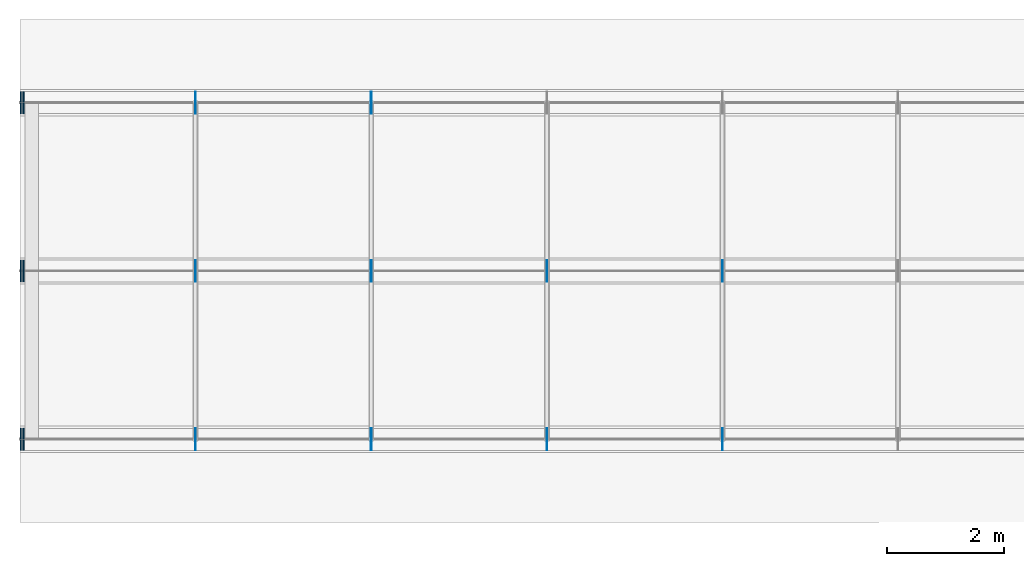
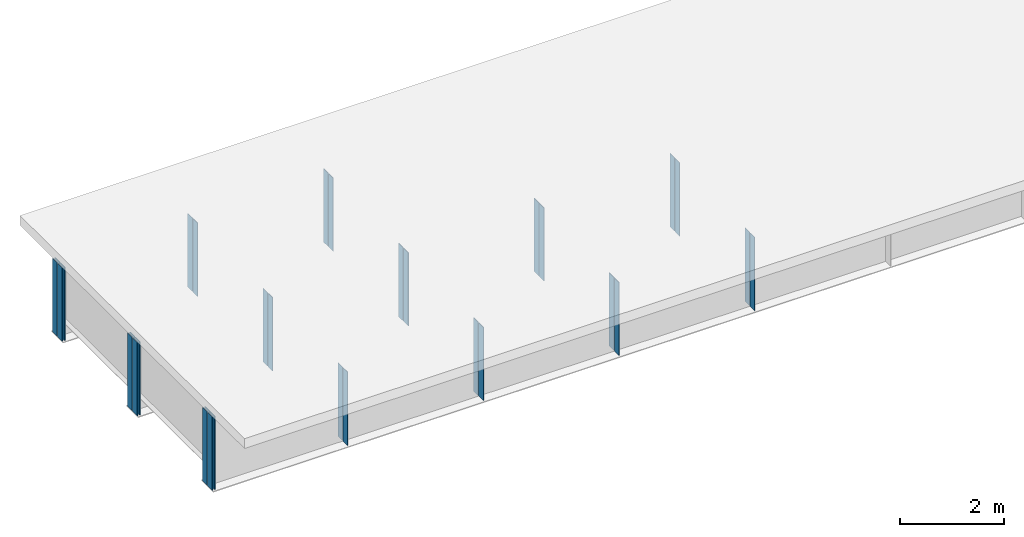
# One storey, part 2 of 10: 32 plates.
"""IFC4 building model written with IfcOpenShell, lengths in metres."""

import ifcopenshell
import ifcopenshell.guid

model = None  # the IFC model being written
_history = None  # IfcOwnerHistory: only IFC2X3 demands one
_inside = {}  # id of a spatial element -> (the spatial element, [elements in it])
_under = {}  # id of a project, library or spatial element -> (it, [spatial elements below it])
_declared = {}  # id of a project -> (the project, [libraries it declares])
_typed = {}  # id of a type object -> (the type object, [elements of that type])
_made_of = {}  # id of a material, layer set ... -> (it, [elements and type objects made of it])


def new_model(schema):
    """Start an empty IFC model of exactly this schema.

    Asked for "IFC4X3", IfcOpenShell would pick the latest addendum, in which some entities
    have other attributes; the version numbers below select the first issue.
    IFC2X3 requires an IfcOwnerHistory on every rooted entity: one is made here for all.
    """
    global model, _history
    if schema == "IFC4X3":
        model = ifcopenshell.file(schema_version=(4, 3, 0, 0))
    else:
        model = ifcopenshell.file(schema=schema)
    _inside.clear()
    _under.clear()
    _declared.clear()
    _typed.clear()
    _made_of.clear()
    _history = None
    if model.schema == "IFC2X3":
        org = make("IfcOrganization", Name="unknown")
        user = make(
            "IfcPersonAndOrganization",
            ThePerson=make("IfcPerson", FamilyName="unknown"),
            TheOrganization=org,
        )
        app = make(
            "IfcApplication",
            ApplicationDeveloper=org,
            Version="unknown",
            ApplicationFullName="unknown",
            ApplicationIdentifier="unknown",
        )
        _history = make(
            "IfcOwnerHistory",
            OwningUser=user,
            OwningApplication=app,
            ChangeAction="ADDED",
            CreationDate=0,
        )
    return model


def make(cls, **values):
    """One entity of the class cls with the attributes given. An attribute that is None is left unset."""
    return model.create_entity(
        cls, **{name: value for name, value in values.items() if value is not None}
    )


def rooted(cls, **values):
    """An entity with a GlobalId (a new one), such as an element, a storey or a relation."""
    return make(cls, GlobalId=ifcopenshell.guid.new(), OwnerHistory=_history, **values)


def si_unit(unit_type, name, prefix=None):
    """IfcSIUnit, for example si_unit("LENGTHUNIT", "METRE", prefix="MILLI")."""
    return make("IfcSIUnit", UnitType=unit_type, Prefix=prefix, Name=name)


def assignment(units):
    """IfcUnitAssignment: the units of a project."""
    return None if units is None else make("IfcUnitAssignment", Units=units)


def point(xyz):
    """IfcCartesianPoint."""
    return None if xyz is None else make("IfcCartesianPoint", Coordinates=xyz)


def direction(xyz):
    """IfcDirection."""
    return None if xyz is None else make("IfcDirection", DirectionRatios=xyz)


def frame(location, z_axis=None, x_axis=None):
    """IfcAxis2Placement3D, a coordinate frame: its origin and axes. An axis left out is left unset."""
    return make(
        "IfcAxis2Placement3D",
        Location=point(location),
        Axis=direction(z_axis),
        RefDirection=direction(x_axis),
    )


def frame_2d(location, x_axis=None):
    """IfcAxis2Placement2D, a coordinate frame in the plane: its origin and x axis."""
    return make(
        "IfcAxis2Placement2D", Location=point(location), RefDirection=direction(x_axis)
    )


def origin():
    """The frame at (0, 0, 0) with its axes left unset."""
    return frame((0.0, 0.0, 0.0))


def origin_with_axes():
    """The frame at (0, 0, 0) with the z axis (0, 0, 1) and the x axis (1, 0, 0) written out."""
    return frame((0.0, 0.0, 0.0), z_axis=(0.0, 0.0, 1.0), x_axis=(1.0, 0.0, 0.0))


def origin_2d_with_axis():
    """The frame at (0, 0) in the plane with the x axis (1, 0) written out."""
    return frame_2d((0.0, 0.0), x_axis=(1.0, 0.0))


def place(relative_to, where):
    """IfcLocalPlacement: puts the frame where relative to a parent placement (None: the world)."""
    return make(
        "IfcLocalPlacement", PlacementRelTo=relative_to, RelativePlacement=where
    )


def context(
    kind, dimensions, precision=None, world=None, true_north=None, identifier=None
):
    """IfcGeometricRepresentationContext, for example the 3D "Model" context."""
    return make(
        "IfcGeometricRepresentationContext",
        ContextIdentifier=identifier,
        ContextType=kind,
        CoordinateSpaceDimension=dimensions,
        Precision=precision,
        WorldCoordinateSystem=world,
        TrueNorth=true_north,
    )


def subcontext(parent, identifier, kind, view, scale=None):
    """IfcGeometricRepresentationSubContext, for example "Body" below "Model"."""
    return make(
        "IfcGeometricRepresentationSubContext",
        ContextIdentifier=identifier,
        ContextType=kind,
        ParentContext=parent,
        TargetScale=scale,
        TargetView=view,
    )


def project(units=None, contexts=None):
    """IfcProject with its units and contexts."""
    return rooted(
        "IfcProject",
        Name="project",
        RepresentationContexts=contexts,
        UnitsInContext=assignment(units),
    )


def spatial(cls, under=None, at=None, **own):
    """A site, building, storey or space (cls), placed at a placement, below another one or the project."""
    s = rooted(cls, ObjectPlacement=at, **own)
    if under is not None:
        _under.setdefault(under.id(), (under, []))[1].append(s)
    return s


def profile(cls, at=None, kind="AREA", **sizes):
    """A parametric profile (cls). Its sizes go by their IFC names, for example OverallWidth=200.0."""
    return make(cls, ProfileType=kind, Position=at, **sizes)


def rectangle(**sizes):
    """IfcRectangleProfileDef."""
    return profile("IfcRectangleProfileDef", **sizes)


def extrude(swept, where, along, depth):
    """IfcExtrudedAreaSolid: the profile swept, set in the frame where, extruded along a direction by depth."""
    return make(
        "IfcExtrudedAreaSolid",
        SweptArea=swept,
        Position=where,
        ExtrudedDirection=direction(along),
        Depth=depth,
    )


def shape(context_of_items, identifier, shape_type, items):
    """IfcShapeRepresentation: the items that make up one representation, for example the "Body"."""
    return make(
        "IfcShapeRepresentation",
        ContextOfItems=context_of_items,
        RepresentationIdentifier=identifier,
        RepresentationType=shape_type,
        Items=items,
    )


def made_of(thing, what):
    """Note that an element or type object is made of a material, layer set ...; save() writes the relation."""
    if what is not None:
        _made_of.setdefault(what.id(), (what, []))[1].append(thing)
    return thing


def element(
    cls,
    number,
    at=None,
    inside=None,
    cuts=None,
    type_object=None,
    material=None,
    context=None,
    identifier="Body",
    shape_type=None,
    held_by="IfcProductDefinitionShape",
    body=None,
    shapes=None,
    **own,
):
    """One element of the class cls, such as IfcWall. Its Tag is "e" and its number.

    at: its placement. inside: the storey or other place that contains it. cuts: it is an
    opening in that element (IfcRelVoidsElement). A single representation is given by context,
    identifier, shape_type and body (its items); several are given by shapes. held_by: the class
    of the entity that holds the representations. save() writes the other relations.
    """
    e = rooted(cls, Tag="e%d" % number, ObjectPlacement=at, **own)
    if body is not None:
        shapes = [shape(context, identifier, shape_type, body)]
    if shapes is not None:
        e.Representation = make(held_by, Representations=shapes)
    if inside is not None:
        _inside.setdefault(inside.id(), (inside, []))[1].append(e)
    if cuts is not None:
        rooted(
            "IfcRelVoidsElement", RelatingBuildingElement=cuts, RelatedOpeningElement=e
        )
    if type_object is not None:
        _typed.setdefault(type_object.id(), (type_object, []))[1].append(e)
    return made_of(e, material)


def aggregate(whole, parts):
    """IfcRelAggregates: a whole, such as a stair, and the parts it consists of."""
    return rooted("IfcRelAggregates", RelatingObject=whole, RelatedObjects=parts)


def save(model, path):
    """Write the relations noted so far, then the file.

    IfcRelAggregates (storeys below a building ...), IfcRelContainedInSpatialStructure (elements
    in a storey), IfcRelDefinesByType, IfcRelAssociatesMaterial and IfcRelDeclares: one each for
    every whole, place, type object, material and project.
    """
    for whole, parts in _under.values():
        aggregate(whole, parts)
    for where, things in _inside.values():
        rooted(
            "IfcRelContainedInSpatialStructure",
            RelatedElements=things,
            RelatingStructure=where,
        )
    for kind, things in _typed.values():
        rooted("IfcRelDefinesByType", RelatedObjects=things, RelatingType=kind)
    for what, things in _made_of.values():
        rooted("IfcRelAssociatesMaterial", RelatedObjects=things, RelatingMaterial=what)
    for by, libraries in _declared.values():
        rooted("IfcRelDeclares", RelatingContext=by, RelatedDefinitions=libraries)
    model.write(path)


model = new_model("IFC4")

# Units and contexts
model_context = context("Model", 3, precision=1e-05, world=origin())
body_context = subcontext(model_context, "Body", "Model", "MODEL_VIEW")
ifc_project = project(units=[si_unit("LENGTHUNIT", "METRE"), si_unit("AREAUNIT", "SQUARE_METRE"), si_unit("VOLUMEUNIT", "CUBIC_METRE"), si_unit("PLANEANGLEUNIT", "RADIAN")], contexts=[model_context])

# Site, building, storey
site_placement = place(None, origin_with_axes())
site = spatial("IfcSite", under=ifc_project, at=site_placement, Name="Default Site")
building_placement = place(site_placement, origin_with_axes())
building = spatial("IfcBuilding", under=site, at=building_placement, Name="Bridge Structure")
storey_placement = place(building_placement, origin_with_axes())
storey = spatial("IfcBuildingStorey", under=building, at=storey_placement, Name="Superstructure")

# Plates
for number, where, z_axis, x_axis, name in (
    (1, (3.0, -2.77725, -0.8575), (0.0, 0.0, 1.0), (1.0, 0.0, 0.0), "Intermediate Stiffener 1"),
    (2, (3.0, -2.97275, -0.8575), (0.0, 0.0, 1.0), (1.0, 0.0, 0.0), "Intermediate Stiffener 1"),
    (3, (6.0, -2.77725, -0.8575), (0.0, 0.0, 1.0), (1.0, 0.0, 0.0), "Intermediate Stiffener 1"),
    (4, (6.0, -2.97275, -0.8575), (0.0, 0.0, 1.0), (1.0, 0.0, 0.0), "Intermediate Stiffener 1"),
    (5, (9.0, -2.77725, -0.8575), (0.0, 0.0, 1.0), (1.0, 0.0, 0.0), "Intermediate Stiffener 1"),
    (6, (9.0, -2.97275, -0.8575), (0.0, 0.0, 1.0), (1.0, 0.0, 0.0), "Intermediate Stiffener 1"),
    (7, (12.0, -2.77725, -0.8575), (0.0, 0.0, 1.0), (1.0, 0.0, 0.0), "Intermediate Stiffener 1"),
    (8, (12.0, -2.97275, -0.8575), (0.0, 0.0, 1.0), (1.0, 0.0, 0.0), "Intermediate Stiffener 1"),
):
    element("IfcPlate", number, at=place(storey_placement, frame(where, z_axis=z_axis, x_axis=x_axis)), inside=storey, Name=name, context=body_context, shape_type="SweptSolid", body=[
        extrude(rectangle(XDim=0.012, YDim=0.1795, at=origin_2d_with_axis()), origin_with_axes(), (0.0, 0.0, 1.0), 1.715),
    ])
for number, where, z_axis, x_axis, name in (
    (9, (0.01, -2.77725, -0.8575), (0.0, 0.0, 1.0), (1.0, 0.0, 0.0), "End Stiffener 1"),
    (10, (0.01, -2.97275, -0.8575), (0.0, 0.0, 1.0), (1.0, 0.0, 0.0), "End Stiffener 1"),
    (11, (0.06, -2.77725, -0.8575), (0.0, 0.0, 1.0), (1.0, 0.0, 0.0), "End Stiffener 1"),
    (12, (0.06, -2.97275, -0.8575), (0.0, 0.0, 1.0), (1.0, 0.0, 0.0), "End Stiffener 1"),
):
    element("IfcPlate", number, at=place(storey_placement, frame(where, z_axis=z_axis, x_axis=x_axis)), inside=storey, Name=name, context=body_context, shape_type="SweptSolid", body=[
        extrude(rectangle(XDim=0.02, YDim=0.1795, at=origin_2d_with_axis()), origin_with_axes(), (0.0, 0.0, 1.0), 1.715),
    ])
for number, where, z_axis, x_axis, name in (
    (13, (3.0, 0.09775, -0.8575), (0.0, 0.0, 1.0), (1.0, 0.0, 0.0), "Intermediate Stiffener 2"),
    (14, (3.0, -0.09775, -0.8575), (0.0, 0.0, 1.0), (1.0, 0.0, 0.0), "Intermediate Stiffener 2"),
    (15, (6.0, 0.09775, -0.8575), (0.0, 0.0, 1.0), (1.0, 0.0, 0.0), "Intermediate Stiffener 2"),
    (16, (6.0, -0.09775, -0.8575), (0.0, 0.0, 1.0), (1.0, 0.0, 0.0), "Intermediate Stiffener 2"),
    (17, (9.0, 0.09775, -0.8575), (0.0, 0.0, 1.0), (1.0, 0.0, 0.0), "Intermediate Stiffener 2"),
    (18, (9.0, -0.09775, -0.8575), (0.0, 0.0, 1.0), (1.0, 0.0, 0.0), "Intermediate Stiffener 2"),
    (19, (12.0, 0.09775, -0.8575), (0.0, 0.0, 1.0), (1.0, 0.0, 0.0), "Intermediate Stiffener 2"),
    (20, (12.0, -0.09775, -0.8575), (0.0, 0.0, 1.0), (1.0, 0.0, 0.0), "Intermediate Stiffener 2"),
):
    element("IfcPlate", number, at=place(storey_placement, frame(where, z_axis=z_axis, x_axis=x_axis)), inside=storey, Name=name, context=body_context, shape_type="SweptSolid", body=[
        extrude(rectangle(XDim=0.012, YDim=0.1795, at=origin_2d_with_axis()), origin_with_axes(), (0.0, 0.0, 1.0), 1.715),
    ])
for number, where, z_axis, x_axis, name in (
    (21, (0.01, 0.09775, -0.8575), (0.0, 0.0, 1.0), (1.0, 0.0, 0.0), "End Stiffener 2"),
    (22, (0.01, -0.09775, -0.8575), (0.0, 0.0, 1.0), (1.0, 0.0, 0.0), "End Stiffener 2"),
    (23, (0.06, 0.09775, -0.8575), (0.0, 0.0, 1.0), (1.0, 0.0, 0.0), "End Stiffener 2"),
    (24, (0.06, -0.09775, -0.8575), (0.0, 0.0, 1.0), (1.0, 0.0, 0.0), "End Stiffener 2"),
):
    element("IfcPlate", number, at=place(storey_placement, frame(where, z_axis=z_axis, x_axis=x_axis)), inside=storey, Name=name, context=body_context, shape_type="SweptSolid", body=[
        extrude(rectangle(XDim=0.02, YDim=0.1795, at=origin_2d_with_axis()), origin_with_axes(), (0.0, 0.0, 1.0), 1.715),
    ])
for number, where, z_axis, x_axis, name in (
    (25, (3.0, 2.97275, -0.8575), (0.0, 0.0, 1.0), (1.0, 0.0, 0.0), "Intermediate Stiffener 3"),
    (26, (3.0, 2.77725, -0.8575), (0.0, 0.0, 1.0), (1.0, 0.0, 0.0), "Intermediate Stiffener 3"),
    (27, (6.0, 2.97275, -0.8575), (0.0, 0.0, 1.0), (1.0, 0.0, 0.0), "Intermediate Stiffener 3"),
    (28, (6.0, 2.77725, -0.8575), (0.0, 0.0, 1.0), (1.0, 0.0, 0.0), "Intermediate Stiffener 3"),
):
    element("IfcPlate", number, at=place(storey_placement, frame(where, z_axis=z_axis, x_axis=x_axis)), inside=storey, Name=name, context=body_context, shape_type="SweptSolid", body=[
        extrude(rectangle(XDim=0.012, YDim=0.1795, at=origin_2d_with_axis()), origin_with_axes(), (0.0, 0.0, 1.0), 1.715),
    ])
for number, where, z_axis, x_axis, name in (
    (29, (0.01, 2.97275, -0.8575), (0.0, 0.0, 1.0), (1.0, 0.0, 0.0), "End Stiffener 3"),
    (30, (0.01, 2.77725, -0.8575), (0.0, 0.0, 1.0), (1.0, 0.0, 0.0), "End Stiffener 3"),
    (31, (0.06, 2.97275, -0.8575), (0.0, 0.0, 1.0), (1.0, 0.0, 0.0), "End Stiffener 3"),
    (32, (0.06, 2.77725, -0.8575), (0.0, 0.0, 1.0), (1.0, 0.0, 0.0), "End Stiffener 3"),
):
    element("IfcPlate", number, at=place(storey_placement, frame(where, z_axis=z_axis, x_axis=x_axis)), inside=storey, Name=name, context=body_context, shape_type="SweptSolid", body=[
        extrude(rectangle(XDim=0.02, YDim=0.1795, at=origin_2d_with_axis()), origin_with_axes(), (0.0, 0.0, 1.0), 1.715),
    ])

save(model, "model.ifc")
